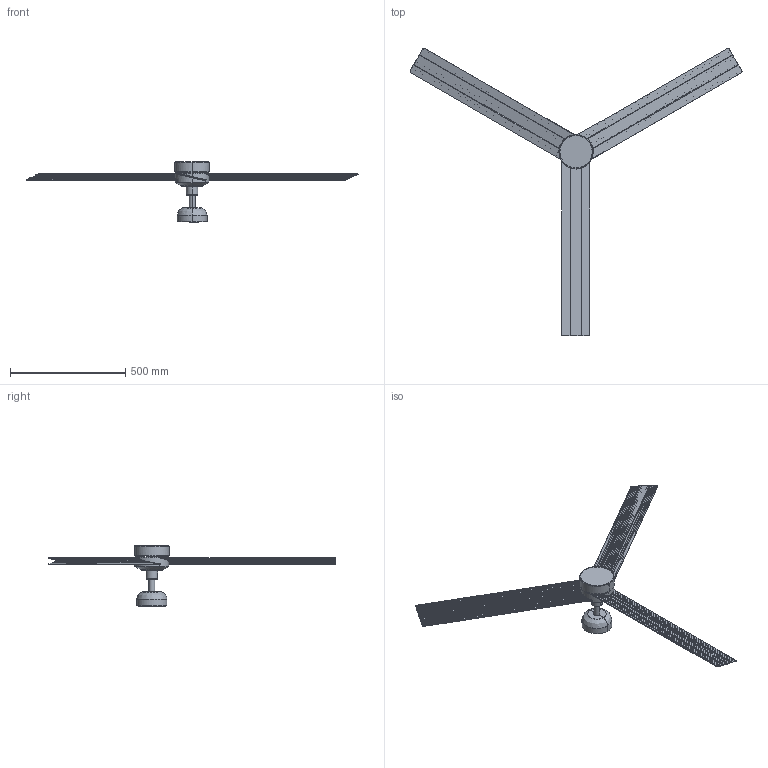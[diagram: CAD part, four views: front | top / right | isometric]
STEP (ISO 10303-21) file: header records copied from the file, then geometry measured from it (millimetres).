
FILE_DESCRIPTION(/* description */ (''),/* implementation_level */ '2;1');
FILE_NAME(/* name */ '34293-1TW_3d.step',/* time_stamp */ '2024-04-17T08:37:32+02:00',/* author */ ('RenataManzini'),/* organization */ (''),/* preprocessor_version */ 'ST-DEVELOPER v20',/* originating_system */ 'AutoCAD Mechanical',/* authorisation */ '');
FILE_SCHEMA (('AUTOMOTIVE_DESIGN { 1 0 10303 214 3 1 1 }'));
Length unit declared in the file: millimetre
Products named in the file (5): Product; pieza_cruiser_XL_LED - Cruiser-484613-_3D_; pieza_cruiser_XL_LED - pala 1600_dwg-484611-_3D_; pieza_cruiser_XL_LED - pala 1600_dwg_ABYP____-484612-_3D_; pieza_cruiser_XL_LED - Cruiser without light-1060_dwg_ABW2C6_____-484
585-_3D_
Assembly tree (6 placements, depth 4):
  Product
    pieza_cruiser_XL_LED - Cruiser-484613-_3D_
      pieza_cruiser_XL_LED - pala 1600_dwg-484611-_3D_
        pieza_cruiser_XL_LED - pala 1600_dwg_ABYP____-484612-_3D_  x3
      pieza_cruiser_XL_LED - Cruiser without light-1060_dwg_ABW2C6_____-484
585-_3D_
Bounding box: 1442.38 x 1251.12 x 261.08 mm (x, y, z)
Volume: 820413.5 mm3; surface area: 875350.5 mm2
Topology: 3 solids, 7 shells, 383 faces, 1109 edges, 714 vertices
Faces by surface type: plane 252, cylinder 106, torus 17, bspline 4, cone 4
Entity records: 10066 total; most frequent: CARTESIAN_POINT 3329, ORIENTED_EDGE 1420, DIRECTION 1357, EDGE_CURVE 720, AXIS2_PLACEMENT_3D 476, VERTEX_POINT 457, LINE 405, VECTOR 405
